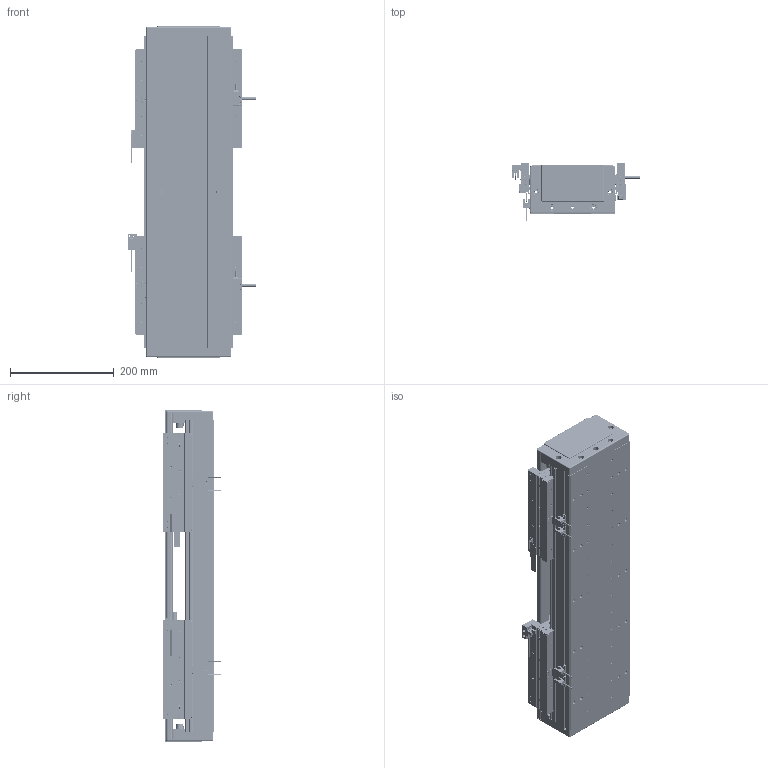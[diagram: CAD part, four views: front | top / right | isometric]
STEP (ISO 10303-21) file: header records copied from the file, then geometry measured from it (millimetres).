
FILE_DESCRIPTION (( 'STEP AP203' ), '1' );
FILE_NAME ('DA-C165-2-C2-T140-C010-0.2 直线电机.STEP', '2023-05-11T08:14:37', ( '微软用户' ), ( '微软中国' ), 'SwSTEP 2.0', 'SolidWorks 2019', '' );
FILE_SCHEMA (( 'CONFIG_CONTROL_DESIGN' ));
Length unit declared in the file: millimetre
Products named in the file (19): 复件 DA165-DG-H-N-00 端盖^DA-C165-C2-T-C010-0.2-N 直线电机; 复件 六角薄螺母 M3^DA-C165-C2-T-C010-0.2-N 直线电机_GB_FASTENER_NUT_STNAB M3-C; 复件 DKW-HXJ-JY-00 缓冲橡胶^DA-C165-C2-T-C010-0.2-N 直线电机; 珨极趙賑雄怢啣wf-C2; IU-CU165-L-00 菁釱_L600; DA-C165-2-C2-T140-C010-0.2 眻盄萇儂; 葩璃 DA95-GT-T-00^IU-CU165-L 菁釱絳寢_T; 葩璃 CKM01-W075-TRL^DA-C165-C2-T-C010-0.2-N 眻盄萇儂; IU-CU165-L 菁釱絳寢; 复件 CKM02-W075-C1C2-TP-3.0 一体电机-C2^DA-C165-C2-T-C010-0.2-N 直线电机; 葩璃 PM-Y45^DA-C165-C2-T-C010-0.2-N 眻盄萇儂; 复件 DMA-010-0.2 读数头^DA-C165-C2-T-C010-0.2-N 直线电机; 复件 XD-U-02L 磁栅尺^DA-C165-C2-T-C010-0.2-N 直线电机_T; 复件 DA95-HXJ-00 缓冲橡胶^DA-C165-C2-T-C010-0.2-N 直线电机; 复件 DA126-GYP-ZJ-00 中间光电感应片^DA-C165-C2-T-C010-0.2-N 直线电机; 复件 DA165-GYP-00 光电感应片^DA-C165-C2-T-C010-0.2-N 直线电机; 葩璃 PM-T45^DA-C165-C2-T-C010-0.2-N 眻盄萇儂; 复件 66338-1000-006-00 光电感应块^DA-C165-C2-T-C010-0.2-N 直线电机; 复件 DA165-T-002-00 盖板^DA-C165-C2-T-C010-0.2-N 直线电机_0840-002-00
Assembly tree (38 placements, depth 3):
  DA-C165-2-C2-T140-C010-0.2 眻盄萇儂
    IU-CU165-L 菁釱絳寢
      IU-CU165-L-00 菁釱_L600
      葩璃 DA95-GT-T-00^IU-CU165-L 菁釱絳寢_T  x4
    复件 DA165-DG-H-N-00 端盖^DA-C165-C2-T-C010-0.2-N 直线电机  x2
    复件 DA95-HXJ-00 缓冲橡胶^DA-C165-C2-T-C010-0.2-N 直线电机  x4
    复件 DA165-T-002-00 盖板^DA-C165-C2-T-C010-0.2-N 直线电机_0840-002-00
    复件 XD-U-02L 磁栅尺^DA-C165-C2-T-C010-0.2-N 直线电机_T
    葩璃 PM-T45^DA-C165-C2-T-C010-0.2-N 眻盄萇儂  x4
    葩璃 CKM01-W075-TRL^DA-C165-C2-T-C010-0.2-N 眻盄萇儂
    复件 CKM02-W075-C1C2-TP-3.0 一体电机-C2^DA-C165-C2-T-C010-0.2-N 直线电机  x2
    复件 DMA-010-0.2 读数头^DA-C165-C2-T-C010-0.2-N 直线电机  x2
    复件 DA165-GYP-00 光电感应片^DA-C165-C2-T-C010-0.2-N 直线电机  x2
    复件 66338-1000-006-00 光电感应块^DA-C165-C2-T-C010-0.2-N 直线电机
    葩璃 PM-Y45^DA-C165-C2-T-C010-0.2-N 眻盄萇儂
    复件 DA126-GYP-ZJ-00 中间光电感应片^DA-C165-C2-T-C010-0.2-N 直线电机
    复件 DKW-HXJ-JY-00 缓冲橡胶^DA-C165-C2-T-C010-0.2-N 直线电机  x2
    复件 六角薄螺母 M3^DA-C165-C2-T-C010-0.2-N 直线电机_GB_FASTENER_NUT_STNAB M3-C  x6
    珨极趙賑雄怢啣wf-C2  x2
Bounding box: 247.2 x 111.45 x 640 mm (x, y, z)
Volume: 7076586.8 mm3; surface area: 1711362.1 mm2
Topology: 115 solids, 115 shells, 4628 faces, 12073 edges, 7464 vertices
Faces by surface type: cylinder 2102, plane 1750, cone 680, torus 88, sphere 8
Entity records: 86310 total; most frequent: CARTESIAN_POINT 18222, DIRECTION 14051, ORIENTED_EDGE 13392, EDGE_CURVE 6696, AXIS2_PLACEMENT_3D 5196, VERTEX_POINT 4301, VECTOR 3659, LINE 3659
